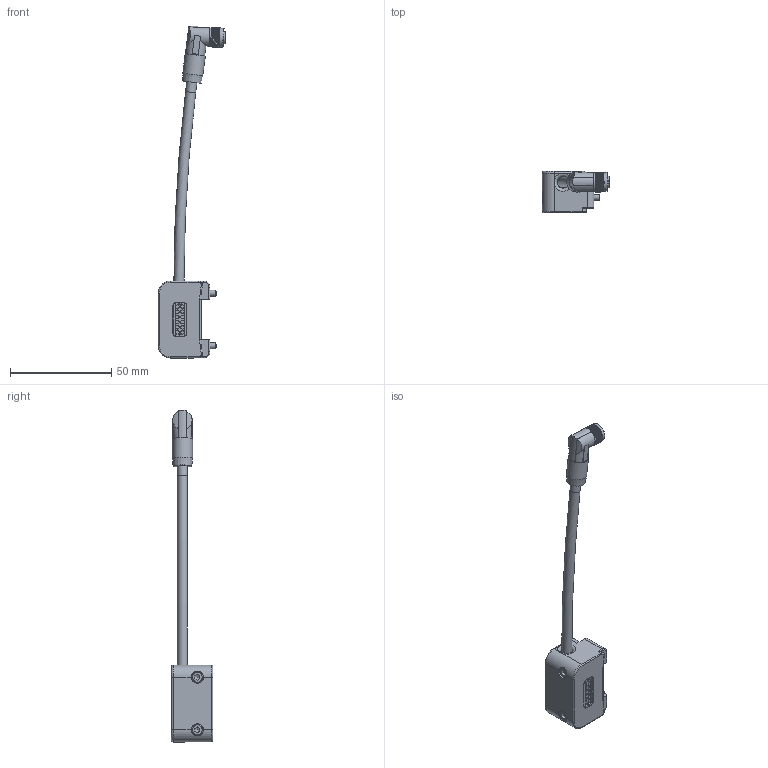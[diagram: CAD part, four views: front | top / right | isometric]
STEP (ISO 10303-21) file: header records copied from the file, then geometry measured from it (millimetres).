
FILE_DESCRIPTION(/* description */ (''),/* implementation_level */ '2;1');
FILE_NAME(/* name */ 'T:\CAD\Standard\SHW\SEK-P\SEK100\SEK100-1FE12\G-SEK100-O-1FE12-300-M8.stp',/* time_stamp */ '2021-04-19T08:36:10+02:00',/* author */ ('vbednarz'),/* organization */ (''),/* preprocessor_version */ 'ST-DEVELOPER v17',/* originating_system */ 'Autodesk Inventor 2018',/* authorisation */ '');
FILE_SCHEMA (('AUTOMOTIVE_DESIGN { 1 0 10303 214 3 1 1 }'));
Length unit declared in the file: millimetre
Products named in the file (1): G-SEK100-O-1FE12
Bounding box: 33.25 x 20.45 x 163.92 mm (x, y, z)
Volume: 19181.5 mm3; surface area: 12081.2 mm2
Topology: 5 solids, 5 shells, 792 faces, 1964 edges, 1270 vertices
Faces by surface type: plane 367, cylinder 296, torus 71, bspline 38, cone 20
Full cylindrical faces by diameter (mm): 0.7 x8, 1 x2, 1.35 x12, 1.8 x2, 1.83 x12, 2 x2, 2.02 x2, 3 x2, 3.4 x2, 4.5 x4, 5 x5, 5.5 x2, 5.8 x2, 6 x2, 7.75 x1, 9.35 x1, 10 x1
Entity records: 26044 total; most frequent: CARTESIAN_POINT 5850, DIRECTION 4271, ORIENTED_EDGE 3904, EDGE_CURVE 1952, AXIS2_PLACEMENT_3D 1655, VERTEX_POINT 1270, LINE 961, VECTOR 961
